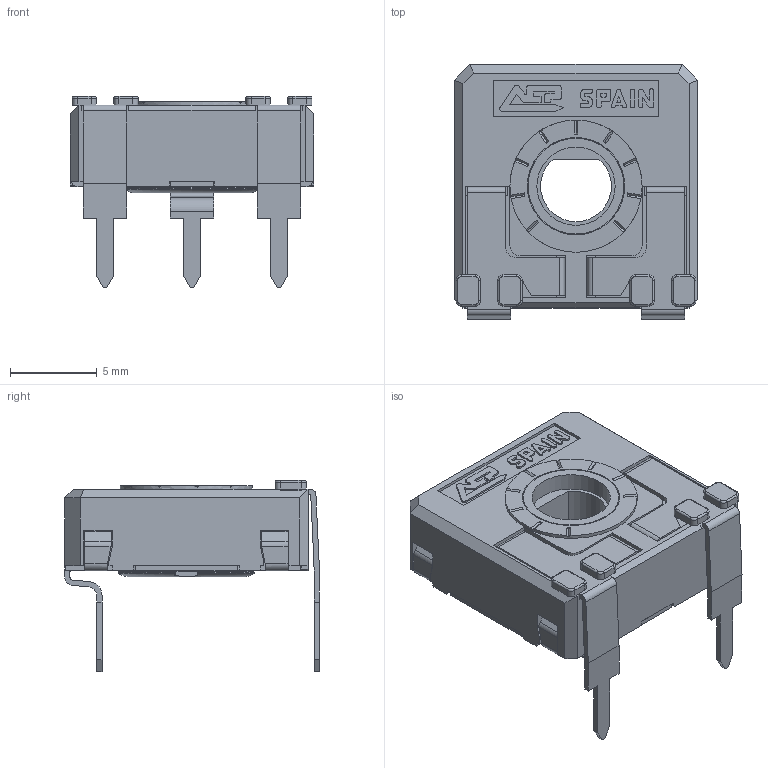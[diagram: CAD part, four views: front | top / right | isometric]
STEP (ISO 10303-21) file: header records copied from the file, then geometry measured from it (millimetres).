
FILE_DESCRIPTION(/* description */ (''),/* implementation_level */ '2;1');
FILE_NAME(/* name */ 'C:\Users\CEM\Desktop\ENVIAR\TRANSICION 3D CATALOGOS\RS14DV12,5.stp',/* time_stamp */ '2025-12-10T10:19:27+01:00',/* author */ ('CEM'),/* organization */ (''),/* preprocessor_version */ 'ST-DEVELOPER v16.13',/* originating_system */ 'Autodesk Inventor 2018',/* authorisation */ '');
FILE_SCHEMA (('AUTOMOTIVE_DESIGN { 1 0 10303 214 3 1 1 }'));
Length unit declared in the file: millimetre
Products named in the file (1): CARCASA CA14 PGA
Bounding box: 14 x 14.65 x 11 mm (x, y, z)
Volume: 524.5 mm3; surface area: 1475 mm2
Topology: 1 solids, 1 shells, 677 faces, 1908 edges, 1228 vertices
Faces by surface type: plane 498, cylinder 142, torus 23, bspline 8, cone 6
Full cylindrical faces by diameter (mm): 4.5 x1, 5.5 x1, 5.6 x1, 5.752 x1, 6.8 x1, 7.6 x1
Entity records: 21959 total; most frequent: CARTESIAN_POINT 4008, ORIENTED_EDGE 3788, DIRECTION 3576, EDGE_CURVE 1894, LINE 1496, VECTOR 1496, VERTEX_POINT 1224, AXIS2_PLACEMENT_3D 1040
